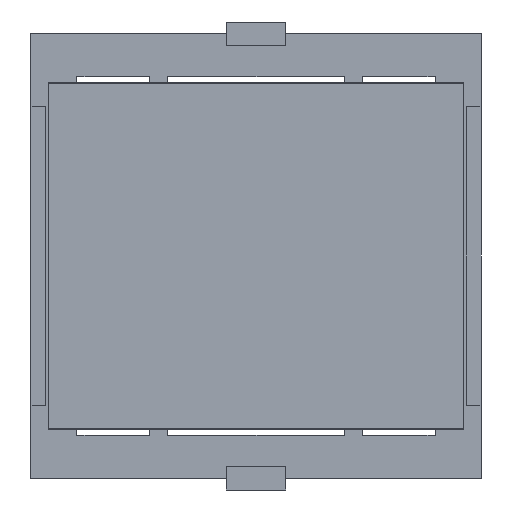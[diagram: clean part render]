
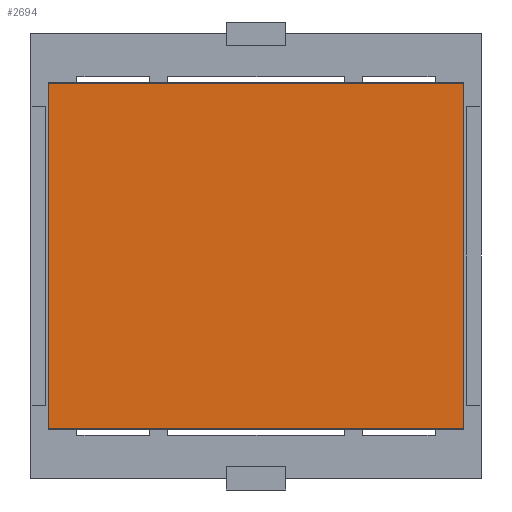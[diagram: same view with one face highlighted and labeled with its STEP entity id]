
A CAD part, front view. The second image highlights one B-rep face of the part: STEP entity #2694.
In plain terms, the highlighted planar face has unit normal (0, -1, 0).
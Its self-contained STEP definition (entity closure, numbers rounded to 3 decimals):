
#35 = EDGE_LOOP ( 'NONE', ( #4389, #5581, #109, #2142 ) ) ;
#109 = ORIENTED_EDGE ( 'NONE', *, *, #3062, .F. ) ;
#281 = CARTESIAN_POINT ( 'NONE',  ( 19.086, -18.701, -2.749 ) ) ;
#387 = DIRECTION ( 'NONE',  ( 0., 1., 0. ) ) ;
#653 = LINE ( 'NONE', #4422, #4695 ) ;
#977 = VERTEX_POINT ( 'NONE', #6155 ) ;
#991 = DIRECTION ( 'NONE',  ( 0., 0., 1. ) ) ;
#1162 = CARTESIAN_POINT ( 'NONE',  ( -15.712, -18.701, 26.207 ) ) ;
#1510 = VECTOR ( 'NONE', #4300, 1000. ) ;
#1746 = DIRECTION ( 'NONE',  ( 0., 0., -1. ) ) ;
#2030 = CARTESIAN_POINT ( 'NONE',  ( -15.712, -18.701, -2.749 ) ) ;
#2142 = ORIENTED_EDGE ( 'NONE', *, *, #2258, .F. ) ;
#2153 = LINE ( 'NONE', #4893, #1510 ) ;
#2258 = EDGE_CURVE ( 'NONE', #5419, #977, #3389, .T. ) ;
#2310 = DIRECTION ( 'NONE',  ( 1., 0., 0. ) ) ;
#2694 = ADVANCED_FACE ( 'NONE', ( #6855 ), #4725, .F. ) ;
#3062 = EDGE_CURVE ( 'NONE', #977, #3617, #653, .T. ) ;
#3389 = LINE ( 'NONE', #4932, #3708 ) ;
#3393 = EDGE_CURVE ( 'NONE', #3617, #4117, #4795, .T. ) ;
#3578 = CARTESIAN_POINT ( 'NONE',  ( -15.712, -18.701, -2.749 ) ) ;
#3617 = VERTEX_POINT ( 'NONE', #281 ) ;
#3650 = CARTESIAN_POINT ( 'NONE',  ( -15.712, -18.701, 26.207 ) ) ;
#3708 = VECTOR ( 'NONE', #2310, 1000. ) ;
#4117 = VERTEX_POINT ( 'NONE', #3578 ) ;
#4300 = DIRECTION ( 'NONE',  ( 0., 0., 1. ) ) ;
#4389 = ORIENTED_EDGE ( 'NONE', *, *, #6810, .F. ) ;
#4422 = CARTESIAN_POINT ( 'NONE',  ( 19.086, -18.701, -2.749 ) ) ;
#4695 = VECTOR ( 'NONE', #1746, 1000. ) ;
#4725 = PLANE ( 'NONE',  #5637 ) ;
#4795 = LINE ( 'NONE', #2030, #5273 ) ;
#4893 = CARTESIAN_POINT ( 'NONE',  ( -15.712, -18.701, -2.749 ) ) ;
#4932 = CARTESIAN_POINT ( 'NONE',  ( -15.712, -18.701, 26.207 ) ) ;
#5273 = VECTOR ( 'NONE', #5682, 1000. ) ;
#5419 = VERTEX_POINT ( 'NONE', #1162 ) ;
#5581 = ORIENTED_EDGE ( 'NONE', *, *, #3393, .F. ) ;
#5637 = AXIS2_PLACEMENT_3D ( 'NONE', #3650, #387, #991 ) ;
#5682 = DIRECTION ( 'NONE',  ( -1., 0., 0. ) ) ;
#6155 = CARTESIAN_POINT ( 'NONE',  ( 19.086, -18.701, 26.207 ) ) ;
#6810 = EDGE_CURVE ( 'NONE', #4117, #5419, #2153, .T. ) ;
#6855 = FACE_OUTER_BOUND ( 'NONE', #35, .T. ) ;
